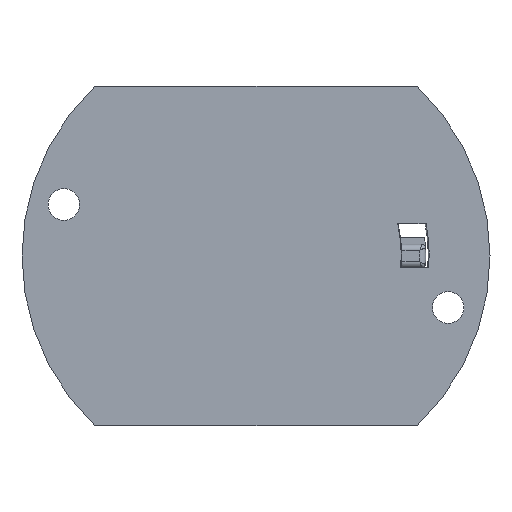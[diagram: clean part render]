
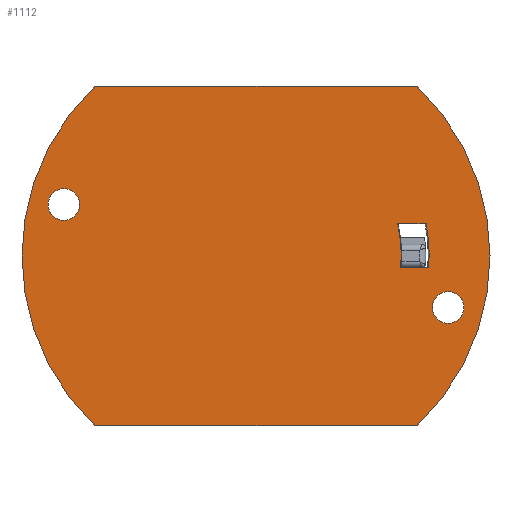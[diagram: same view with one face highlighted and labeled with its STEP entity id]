
A CAD part, top view. The second image highlights one B-rep face of the part: STEP entity #1112.
In plain terms, the highlighted planar face has unit normal (0, 0, 1).
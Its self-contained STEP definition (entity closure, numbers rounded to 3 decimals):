
#151=LINE('',#2071,#213);
#154=LINE('',#2083,#216);
#155=LINE('',#2088,#217);
#156=LINE('',#2091,#218);
#213=VECTOR('',#1449,1000.);
#216=VECTOR('',#1458,1000.);
#217=VECTOR('',#1461,1000.);
#218=VECTOR('',#1464,1000.);
#424=ORIENTED_EDGE('',*,*,#675,.F.);
#425=ORIENTED_EDGE('',*,*,#676,.F.);
#426=ORIENTED_EDGE('',*,*,#677,.F.);
#427=ORIENTED_EDGE('',*,*,#678,.F.);
#428=ORIENTED_EDGE('',*,*,#661,.F.);
#429=ORIENTED_EDGE('',*,*,#664,.F.);
#430=ORIENTED_EDGE('',*,*,#670,.F.);
#431=ORIENTED_EDGE('',*,*,#668,.F.);
#432=ORIENTED_EDGE('',*,*,#679,.F.);
#433=ORIENTED_EDGE('',*,*,#673,.F.);
#661=EDGE_CURVE('',#789,#789,#852,.T.);
#664=EDGE_CURVE('',#792,#792,#855,.T.);
#668=EDGE_CURVE('',#796,#794,#857,.T.);
#670=EDGE_CURVE('',#794,#798,#151,.T.);
#673=EDGE_CURVE('',#798,#799,#858,.T.);
#675=EDGE_CURVE('',#800,#801,#154,.T.);
#676=EDGE_CURVE('',#802,#800,#859,.T.);
#677=EDGE_CURVE('',#803,#802,#155,.T.);
#678=EDGE_CURVE('',#801,#803,#860,.T.);
#679=EDGE_CURVE('',#799,#796,#156,.T.);
#789=VERTEX_POINT('',#2050);
#792=VERTEX_POINT('',#2058);
#794=VERTEX_POINT('',#2062);
#796=VERTEX_POINT('',#2066);
#798=VERTEX_POINT('',#2072);
#799=VERTEX_POINT('',#2080);
#800=VERTEX_POINT('',#2084);
#801=VERTEX_POINT('',#2085);
#802=VERTEX_POINT('',#2087);
#803=VERTEX_POINT('',#2089);
#852=CIRCLE('',#1213,1.35);
#855=CIRCLE('',#1218,1.35);
#857=CIRCLE('',#1221,20.);
#858=CIRCLE('',#1224,20.);
#859=CIRCLE('',#1226,14.8);
#860=CIRCLE('',#1227,12.414);
#920=EDGE_LOOP('',(#424,#425,#426,#427));
#921=EDGE_LOOP('',(#428));
#922=EDGE_LOOP('',(#429));
#923=EDGE_LOOP('',(#430,#431,#432,#433));
#1003=FACE_BOUND('',#920,.T.);
#1004=FACE_BOUND('',#921,.T.);
#1005=FACE_BOUND('',#922,.T.);
#1006=FACE_BOUND('',#923,.T.);
#1052=PLANE('',#1225);
#1112=ADVANCED_FACE('',(#1003,#1004,#1005,#1006),#1052,.T.);
#1213=AXIS2_PLACEMENT_3D('',#2049,#1426,#1427);
#1218=AXIS2_PLACEMENT_3D('',#2057,#1436,#1437);
#1221=AXIS2_PLACEMENT_3D('',#2067,#1444,#1445);
#1224=AXIS2_PLACEMENT_3D('',#2079,#1453,#1454);
#1225=AXIS2_PLACEMENT_3D('',#2082,#1456,#1457);
#1226=AXIS2_PLACEMENT_3D('',#2086,#1459,#1460);
#1227=AXIS2_PLACEMENT_3D('',#2090,#1462,#1463);
#1426=DIRECTION('',(0.,0.,1.));
#1427=DIRECTION('',(-1.,0.,0.));
#1436=DIRECTION('',(0.,0.,1.));
#1437=DIRECTION('',(-1.,0.,0.));
#1444=DIRECTION('',(0.,0.,-1.));
#1445=DIRECTION('',(0.689,0.725,0.));
#1449=DIRECTION('',(-1.,0.,0.));
#1453=DIRECTION('',(0.,0.,-1.));
#1454=DIRECTION('',(-0.757,0.654,0.));
#1456=DIRECTION('',(0.,0.,1.));
#1457=DIRECTION('',(0.,1.,0.));
#1458=DIRECTION('',(-1.,0.,0.));
#1459=DIRECTION('',(0.,0.,1.));
#1460=DIRECTION('',(0.998,-0.068,0.));
#1461=DIRECTION('',(1.,0.,0.));
#1462=DIRECTION('',(0.,0.,-1.));
#1463=DIRECTION('',(0.975,0.222,0.));
#1464=DIRECTION('',(1.,0.,0.));
#2049=CARTESIAN_POINT('',(-16.421,4.4,10.3));
#2050=CARTESIAN_POINT('',(-17.771,4.4,10.3));
#2057=CARTESIAN_POINT('',(16.421,-4.4,10.3));
#2058=CARTESIAN_POINT('',(15.071,-4.4,10.3));
#2062=CARTESIAN_POINT('',(13.775,-14.5,10.3));
#2066=CARTESIAN_POINT('',(13.775,14.5,10.3));
#2067=CARTESIAN_POINT('',(0.,0.,10.3));
#2071=CARTESIAN_POINT('',(13.775,-14.5,10.3));
#2072=CARTESIAN_POINT('',(-13.775,-14.5,10.3));
#2079=CARTESIAN_POINT('',(0.,0.,10.3));
#2080=CARTESIAN_POINT('',(-13.775,14.5,10.3));
#2082=CARTESIAN_POINT('',(20.556,-15.,10.3));
#2083=CARTESIAN_POINT('',(14.542,2.75,10.3));
#2084=CARTESIAN_POINT('',(14.542,2.75,10.3));
#2085=CARTESIAN_POINT('',(12.106,2.75,10.3));
#2086=CARTESIAN_POINT('',(0.,0.,10.3));
#2087=CARTESIAN_POINT('',(14.766,-1.,10.3));
#2088=CARTESIAN_POINT('',(12.374,-1.,10.3));
#2089=CARTESIAN_POINT('',(12.374,-1.,10.3));
#2090=CARTESIAN_POINT('',(0.,0.,10.3));
#2091=CARTESIAN_POINT('',(-13.775,14.5,10.3));
